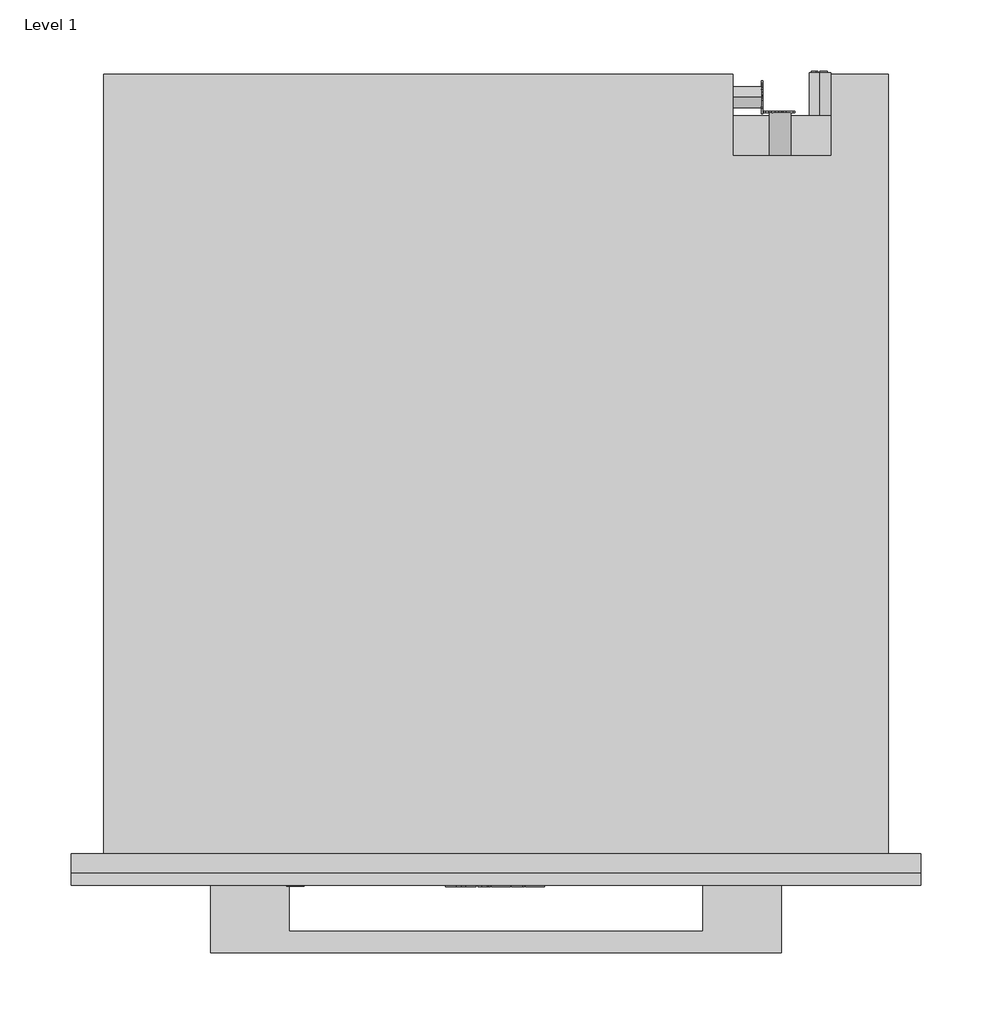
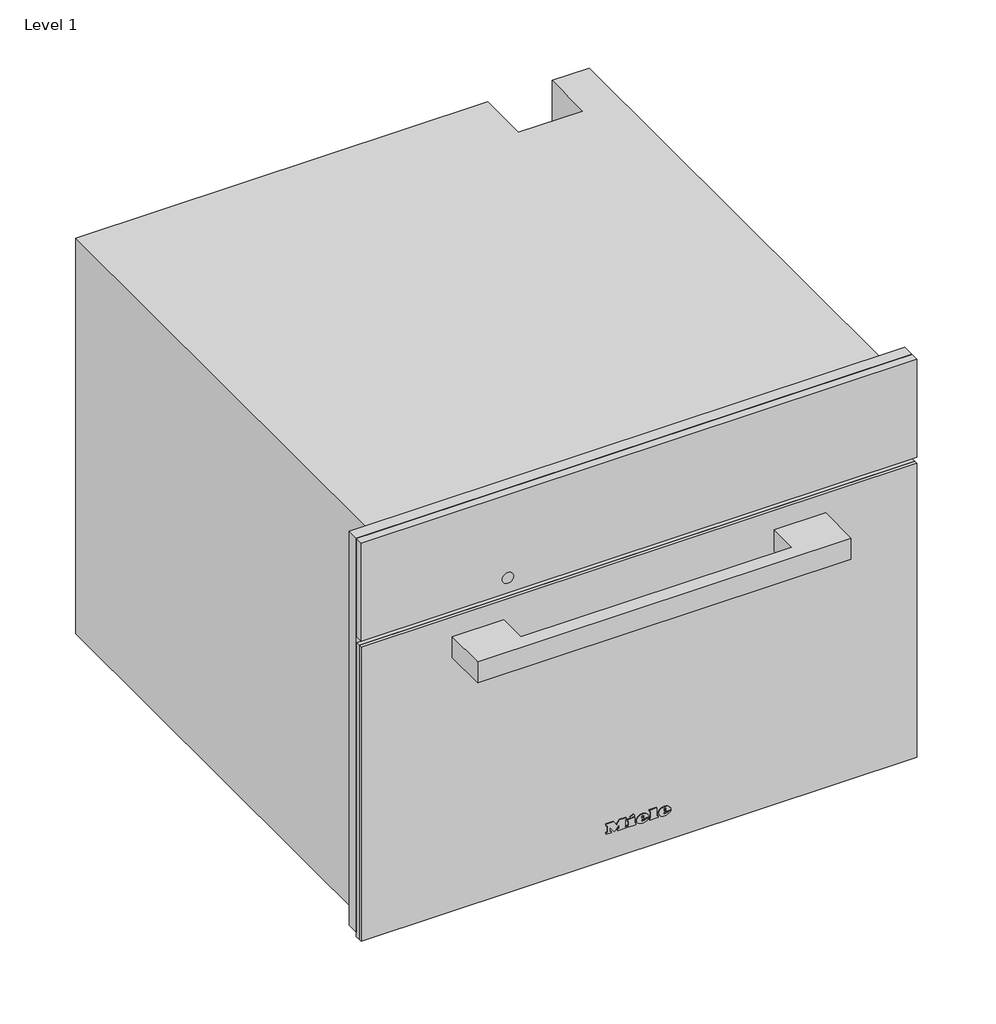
# One storey: 1 proxy.
"""IFC4 building model written with IfcOpenShell, lengths in millimetres."""

from ifc_helpers import new_model, si_unit, origin, place, context, project, spatial, transform, mapped, element, save
from components import specialty_equipment_906b5979

model = new_model("IFC4")

# Units and contexts
model_context = context("Model", 3, world=origin())
ifc_project = project(units=[si_unit("LENGTHUNIT", "METRE", prefix="MILLI")], contexts=[model_context])

# Site, building, storey
site = spatial("IfcSite", under=ifc_project)
building = spatial("IfcBuilding", under=site)
storey = spatial("IfcBuildingStorey", under=building, Name="Level 1", Elevation=0.0)

# Proxy
placement = place(None, origin())
specialty_equipment_shape = specialty_equipment_906b5979(model_context)
element("IfcBuildingElementProxy", 1, Name="11107190_D_DGC7845_OBSW : 23784522_D_11107190_DGC7845_OBSW", ObjectType="11107190_D_DGC7845_OBSW : 23784522_D_11107190_DGC7845_OBSW", at=placement, inside=storey, context=model_context, shape_type="MappedRepresentation", body=[
    mapped(specialty_equipment_shape, transform((0.0, 0.0, 0.0), x_axis=(1.0, 0.0, 0.0), y_axis=(0.0, 1.0, 0.0), z_axis=(0.0, 0.0, 1.0))),
])

save(model, "model.ifc")
